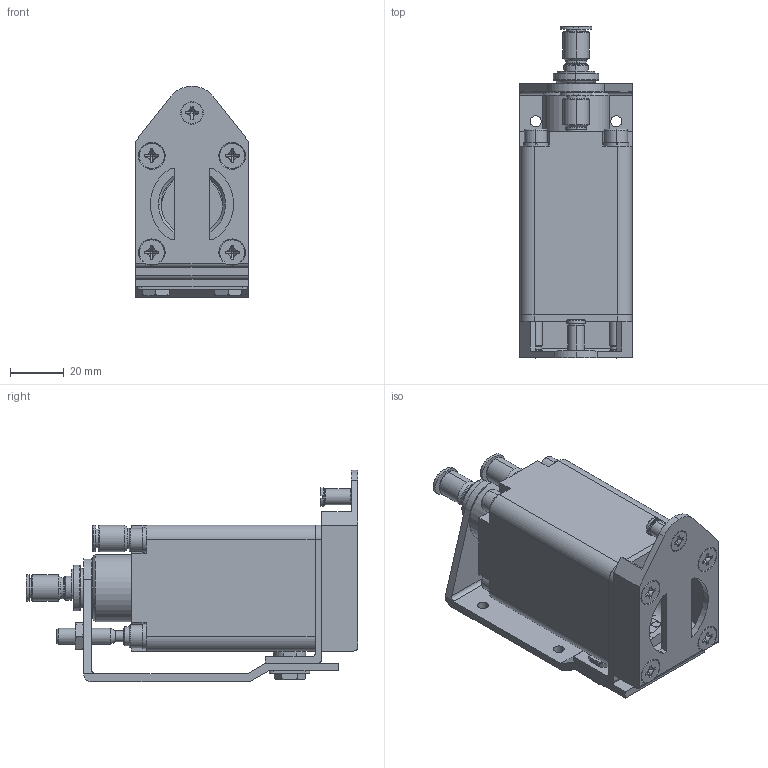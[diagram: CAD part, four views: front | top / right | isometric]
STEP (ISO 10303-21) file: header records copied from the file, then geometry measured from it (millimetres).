
FILE_DESCRIPTION (( 'STEP AP214' ), '1' );
FILE_NAME ('GT-NY25R-6.STEP', '2019-11-27T00:49:53', ( '微软用户' ), ( '微软中国' ), 'SwSTEP 2.0', 'SolidWorks 2016', '' );
FILE_SCHEMA (( 'AUTOMOTIVE_DESIGN' ));
Length unit declared in the file: millimetre
Products named in the file (1): GT-NY25R-6
Bounding box: 42 x 123.8 x 79 mm (x, y, z)
Surface area: 52001.5 mm2 (no closed solid volume)
Topology: 0 solids, 31 shells, 793 faces, 2017 edges, 1305 vertices
Faces by surface type: plane 347, cylinder 248, bspline 138, cone 36, torus 24
Entity records: 33802 total; most frequent: CARTESIAN_POINT 10894, ORIENTED_EDGE 3969, DIRECTION 3512, EDGE_CURVE 2007, AXIS2_PLACEMENT_3D 1336, VERTEX_POINT 1305, EDGE_LOOP 899, VECTOR 840
